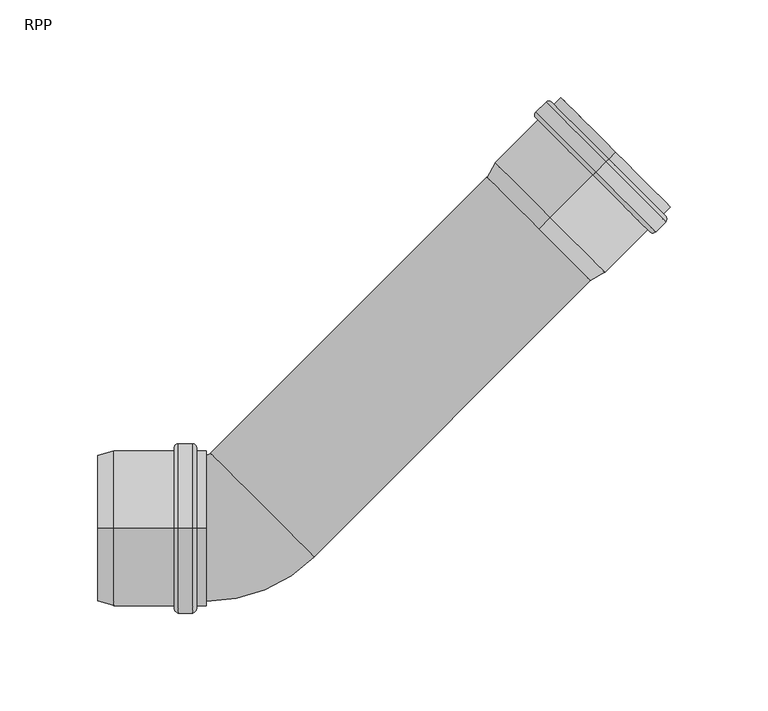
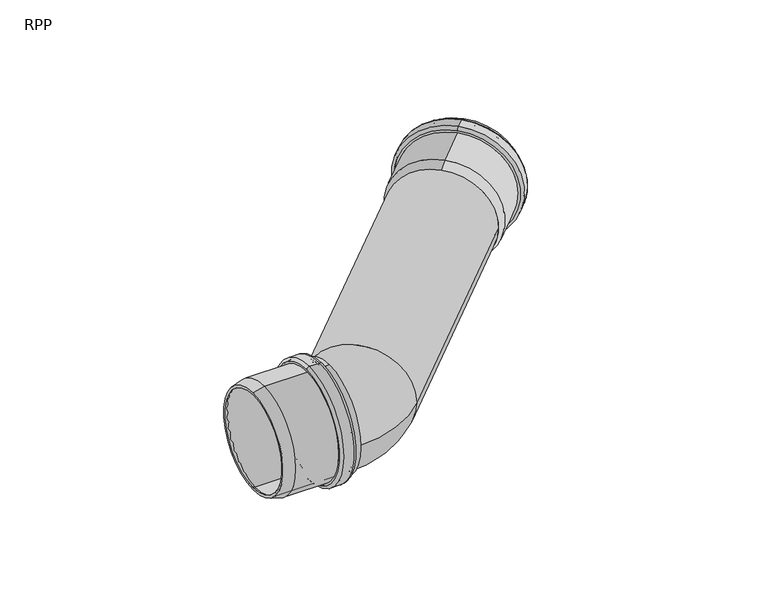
"""IFC4 building model written with IfcOpenShell, lengths in millimetres: pipe fitting geometry, RAUPIANO PLUS Deflection Bend : RPP."""

from ifc_helpers import new_model, si_unit, point, frame, origin, place, context, project, spatial, polyline, circle_curve, ellipse_curve, trimmed, source, transform, mapped, element, save
from ifc_brep_helpers import plane_surface, cylinder_surface, revolved_surface, advanced_brep


def rpp_4973850c(model_context):
    return source(origin(), model_context, "Body", "AdvancedBrep", [
        advanced_brep(
        [(-31.2756493, 0.0, 37.8), (-31.2756493, 0.0, -37.8), (-63.9149978, 0.0, -37.8), (-63.9149978, 0.0, 37.8), (-30.7756493, 0.0, 41.6), (-30.7756493, 0.0, -41.6), (-31.2756493, 0.0, -41.1), (-31.2756493, 0.0, 41.1), (-24.1756493, 0.0, 41.6), (-24.1756493, 0.0, -41.6), (-23.6756493, 0.0, 41.1), (-23.6756493, 0.0, -41.1), (-16.7756493, 0.0, 37.8), (-16.7756493, 0.0, -37.8), (-23.6756493, 0.0, -37.8), (-23.6756493, 0.0, 37.8), (-21.7756493, 0.0, 39.7), (-21.7756493, 0.0, -39.7), (-16.7756493, 0.0, -39.7), (-16.7756493, 0.0, 39.7), (-23.7756493, 0.0, 43.5), (-23.7756493, 0.0, -43.5), (-21.7756493, 0.0, -41.5), (-21.7756493, 0.0, 41.5), (-31.1756493, 0.0, 43.5), (-31.1756493, 0.0, -43.5), (-33.1756493, 0.0, 41.5), (-33.1756493, 0.0, -41.5), (-64.1651375, 0.0, 39.7), (-64.1651375, 0.0, -39.7), (-33.1756493, 0.0, -39.7), (-33.1756493, 0.0, 39.7), (-72.3756493, 0.0, 37.5), (-72.3756493, 0.0, -37.5), (-72.3756493, 0.0, -35.5329753), (-72.3756493, 0.0, 35.5329753)],
        [
            (0, 1, circle_curve(frame((-31.2756493, 0.0, 0.0), z_axis=(1.0, 0.0, 0.0), x_axis=(0.0, 0.0, -1.0)), 37.8)),
            (1, 2),
            (2, 3, circle_curve(frame((-63.9149978, 0.0, 0.0), z_axis=(-1.0, 0.0, 0.0), x_axis=(0.0, 0.0, -1.0)), 37.8)),
            (3, 0),
            (4, 5, circle_curve(frame((-30.7756493, 0.0, 0.0), z_axis=(1.0, 0.0, 0.0), x_axis=(0.0, 0.0, -1.0)), 41.6)),
            (5, 6, circle_curve(frame((-30.7756493, 0.0, -41.1), z_axis=(0.0, 1.0, 0.0), x_axis=(0.0, 0.0, 1.0)), 0.5)),
            (6, 7, circle_curve(frame((-31.2756493, 0.0, 0.0), z_axis=(-1.0, 0.0, 0.0), x_axis=(0.0, 0.0, -1.0)), 41.1)),
            (7, 4, circle_curve(frame((-30.7756493, 0.0, 41.1), z_axis=(0.0, 1.0, 0.0), x_axis=(0.0, 0.0, -1.0)), 0.5)),
            (8, 9, circle_curve(frame((-24.1756493, 0.0, 0.0), z_axis=(1.0, 0.0, 0.0), x_axis=(0.0, 0.0, -1.0)), 41.6)),
            (9, 5),
            (4, 8),
            (10, 11, circle_curve(frame((-23.6756493, 0.0, 0.0), z_axis=(1.0, 0.0, 0.0), x_axis=(0.0, 0.0, -1.0)), 41.1)),
            (11, 9, circle_curve(frame((-24.1756493, 0.0, -41.1), z_axis=(0.0, 1.0, 0.0), x_axis=(0.0, 0.0, 1.0)), 0.5)),
            (8, 10, circle_curve(frame((-24.1756493, 0.0, 41.1), z_axis=(0.0, 1.0, 0.0), x_axis=(0.0, 0.0, -1.0)), 0.5)),
            (12, 13, circle_curve(frame((-16.7756493, 0.0, 0.0), z_axis=(1.0, 0.0, 0.0), x_axis=(0.0, 0.0, -1.0)), 37.8)),
            (13, 14),
            (14, 15, circle_curve(frame((-23.6756493, 0.0, 0.0), z_axis=(-1.0, 0.0, 0.0), x_axis=(0.0, 0.0, -1.0)), 37.8)),
            (15, 12),
            (16, 17, circle_curve(frame((-21.7756493, 0.0, 0.0), z_axis=(1.0, 0.0, 0.0), x_axis=(0.0, 0.0, -1.0)), 39.7)),
            (17, 18),
            (18, 19, circle_curve(frame((-16.7756493, 0.0, 0.0), z_axis=(-1.0, 0.0, 0.0), x_axis=(0.0, 0.0, -1.0)), 39.7)),
            (19, 16),
            (20, 21, circle_curve(frame((-23.7756493, 0.0, 0.0), z_axis=(1.0, 0.0, 0.0), x_axis=(0.0, 0.0, -1.0)), 43.5)),
            (21, 22, circle_curve(frame((-23.7756493, 0.0, -41.5), z_axis=(0.0, -1.0, 0.0), x_axis=(0.0, 0.0, 1.0)), 2.0)),
            (22, 23, circle_curve(frame((-21.7756493, 0.0, 0.0), z_axis=(-1.0, 0.0, 0.0), x_axis=(0.0, 0.0, -1.0)), 41.5)),
            (23, 20, circle_curve(frame((-23.7756493, 0.0, 41.5), z_axis=(0.0, -1.0, 0.0), x_axis=(0.0, 0.0, -1.0)), 2.0)),
            (24, 25, circle_curve(frame((-31.1756493, 0.0, 0.0), z_axis=(1.0, 0.0, 0.0), x_axis=(0.0, 0.0, -1.0)), 43.5)),
            (25, 21),
            (20, 24),
            (26, 27, circle_curve(frame((-33.1756493, 0.0, 0.0), z_axis=(1.0, 0.0, 0.0), x_axis=(0.0, 0.0, -1.0)), 41.5)),
            (27, 25, circle_curve(frame((-31.1756493, 0.0, -41.5), z_axis=(0.0, -1.0, 0.0), x_axis=(0.0, 0.0, 1.0)), 2.0)),
            (24, 26, circle_curve(frame((-31.1756493, 0.0, 41.5), z_axis=(0.0, -1.0, 0.0), x_axis=(0.0, 0.0, -1.0)), 2.0)),
            (28, 29, circle_curve(frame((-64.1651375, 0.0, 0.0), z_axis=(1.0, 0.0, 0.0), x_axis=(0.0, 0.0, -1.0)), 39.7)),
            (29, 30),
            (30, 31, circle_curve(frame((-33.1756493, 0.0, 0.0), z_axis=(-1.0, 0.0, 0.0), x_axis=(0.0, 0.0, -1.0)), 39.7)),
            (31, 28),
            (32, 33, circle_curve(frame((-72.3756493, 0.0, 0.0), z_axis=(1.0, 0.0, 0.0), x_axis=(0.0, 0.0, -1.0)), 37.5)),
            (33, 29),
            (28, 32),
            (2, 34),
            (34, 35, circle_curve(frame((-72.3756493, 0.0, 0.0), z_axis=(-1.0, 0.0, 0.0), x_axis=(0.0, 0.0, -1.0)), 35.5329753)),
            (35, 3),
            (1, 0, circle_curve(frame((-31.2756493, 0.0, 0.0), z_axis=(1.0, 0.0, 0.0), x_axis=(0.0, 0.0, 1.0)), 37.8)),
            (3, 2, circle_curve(frame((-63.9149978, 0.0, 0.0), z_axis=(-1.0, 0.0, 0.0), x_axis=(0.0, 0.0, 1.0)), 37.8)),
            (6, 7, circle_curve(frame((-31.2756493, 0.0, 0.0), z_axis=(1.0, 0.0, 0.0), x_axis=(0.0, 0.0, 1.0)), 41.1)),
            (5, 4, circle_curve(frame((-30.7756493, 0.0, 0.0), z_axis=(1.0, 0.0, 0.0), x_axis=(0.0, 0.0, 1.0)), 41.6)),
            (9, 8, circle_curve(frame((-24.1756493, 0.0, 0.0), z_axis=(1.0, 0.0, 0.0), x_axis=(0.0, 0.0, 1.0)), 41.6)),
            (11, 10, circle_curve(frame((-23.6756493, 0.0, 0.0), z_axis=(1.0, 0.0, 0.0), x_axis=(0.0, 0.0, 1.0)), 41.1)),
            (14, 15, circle_curve(frame((-23.6756493, 0.0, 0.0), z_axis=(1.0, 0.0, 0.0), x_axis=(0.0, 0.0, 1.0)), 37.8)),
            (13, 12, circle_curve(frame((-16.7756493, 0.0, 0.0), z_axis=(1.0, 0.0, 0.0), x_axis=(0.0, 0.0, 1.0)), 37.8)),
            (18, 19, circle_curve(frame((-16.7756493, 0.0, 0.0), z_axis=(1.0, 0.0, 0.0), x_axis=(0.0, 0.0, 1.0)), 39.7)),
            (17, 16, circle_curve(frame((-21.7756493, 0.0, 0.0), z_axis=(1.0, 0.0, 0.0), x_axis=(0.0, 0.0, 1.0)), 39.7)),
            (22, 23, circle_curve(frame((-21.7756493, 0.0, 0.0), z_axis=(1.0, 0.0, 0.0), x_axis=(0.0, 0.0, 1.0)), 41.5)),
            (21, 20, circle_curve(frame((-23.7756493, 0.0, 0.0), z_axis=(1.0, 0.0, 0.0), x_axis=(0.0, 0.0, 1.0)), 43.5)),
            (25, 24, circle_curve(frame((-31.1756493, 0.0, 0.0), z_axis=(1.0, 0.0, 0.0), x_axis=(0.0, 0.0, 1.0)), 43.5)),
            (27, 26, circle_curve(frame((-33.1756493, 0.0, 0.0), z_axis=(1.0, 0.0, 0.0), x_axis=(0.0, 0.0, 1.0)), 41.5)),
            (30, 31, circle_curve(frame((-33.1756493, 0.0, 0.0), z_axis=(1.0, 0.0, 0.0), x_axis=(0.0, 0.0, 1.0)), 39.7)),
            (29, 28, circle_curve(frame((-64.1651375, 0.0, 0.0), z_axis=(1.0, 0.0, 0.0), x_axis=(0.0, 0.0, 1.0)), 39.7)),
            (33, 32, circle_curve(frame((-72.3756493, 0.0, 0.0), z_axis=(1.0, 0.0, 0.0), x_axis=(0.0, 0.0, 1.0)), 37.5)),
            (34, 35, circle_curve(frame((-72.3756493, 0.0, 0.0), z_axis=(1.0, 0.0, 0.0), x_axis=(0.0, 0.0, 1.0)), 35.5329753)),
        ],
        [
            revolved_surface(polyline([(-63.9149978, 0.0, -37.8), (-31.275649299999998, 0.0, -37.8)]), (-72.3756493, 0.0, 0.0), (-1.0, 0.0, 0.0)),
            revolved_surface(trimmed(ellipse_curve(frame((-30.7756493, 0.0, -41.1), z_axis=(0.0, -1.0, 0.0), x_axis=(0.0, 0.0, 1.0)), 0.5, 0.5), [point((-31.2756493, 0.0, -41.1))], [point((-30.7756493, 0.0, -41.6))], True, "CARTESIAN"), (-72.3756493, 0.0, 0.0), (-1.0, 0.0, 0.0)),
            revolved_surface(polyline([(-30.775649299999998, 0.0, -41.6), (-24.175649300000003, 0.0, -41.6)]), (-72.3756493, 0.0, 0.0), (-1.0, 0.0, 0.0)),
            revolved_surface(trimmed(ellipse_curve(frame((-24.1756493, 0.0, -41.1), z_axis=(0.0, -1.0, 0.0), x_axis=(0.0, 0.0, 1.0)), 0.5, 0.5), [point((-24.1756493, 0.0, -41.6))], [point((-23.6756493, 0.0, -41.1))], True, "CARTESIAN"), (-72.3756493, 0.0, 0.0), (-1.0, 0.0, 0.0)),
            revolved_surface(polyline([(-23.675649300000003, 0.0, -37.8), (-16.775649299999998, 0.0, -37.8)]), (-72.3756493, 0.0, 0.0), (-1.0, 0.0, 0.0)),
            cylinder_surface(frame((-72.3756493, 0.0, 0.0), z_axis=(-1.0, 0.0, 0.0), x_axis=(0.0, 0.0, -1.0)), 39.7),
            revolved_surface(trimmed(ellipse_curve(frame((-23.7756493, 0.0, -41.5), z_axis=(0.0, 1.0, 0.0), x_axis=(0.0, 0.0, 1.0)), 2.0, 2.0), [point((-21.7756493, 0.0, -41.5))], [point((-23.7756493, 0.0, -43.5))], True, "CARTESIAN"), (-72.3756493, 0.0, 0.0), (-1.0, 0.0, 0.0)),
            cylinder_surface(frame((-72.3756493, 0.0, 0.0), z_axis=(-1.0, 0.0, 0.0), x_axis=(0.0, 0.0, -1.0)), 43.5),
            revolved_surface(trimmed(ellipse_curve(frame((-31.1756493, 0.0, -41.5), z_axis=(0.0, 1.0, 0.0), x_axis=(0.0, 0.0, 1.0)), 2.0, 2.0), [point((-31.1756493, 0.0, -43.5))], [point((-33.1756493, 0.0, -41.5))], True, "CARTESIAN"), (-72.3756493, 0.0, 0.0), (-1.0, 0.0, 0.0)),
            revolved_surface(polyline([(-64.1651375, 0.0, -39.7), (-72.3756493, 0.0, -37.5)]), (-72.3756493, 0.0, 0.0), (-1.0, 0.0, 0.0)),
            revolved_surface(polyline([(-72.3756493, 0.0, -35.5329753), (-63.9149978, 0.0, -37.8)]), (-72.3756493, 0.0, 0.0), (-1.0, 0.0, 0.0)),
            revolved_surface(polyline([(-63.9149978, 0.0, 37.8), (-31.275649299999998, 0.0, 37.8)]), (-72.3756493, 0.0, 0.0), (-1.0, 0.0, 0.0)),
            plane_surface(frame((-31.2756493, 0.0, 0.0), z_axis=(1.0, 0.0, 0.0), x_axis=(0.0, 0.0, 1.0))),
            revolved_surface(trimmed(ellipse_curve(frame((-30.7756493, 0.0, 41.1), z_axis=(0.0, 1.0, 0.0), x_axis=(0.0, 0.0, -1.0)), 0.5, 0.5), [point((-31.2756493, 0.0, 41.1))], [point((-30.7756493, 0.0, 41.6))], True, "CARTESIAN"), (-72.3756493, 0.0, 0.0), (-1.0, 0.0, 0.0)),
            revolved_surface(polyline([(-30.775649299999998, 0.0, 41.6), (-24.175649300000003, 0.0, 41.6)]), (-72.3756493, 0.0, 0.0), (-1.0, 0.0, 0.0)),
            revolved_surface(trimmed(ellipse_curve(frame((-24.1756493, 0.0, 41.1), z_axis=(0.0, 1.0, 0.0), x_axis=(0.0, 0.0, -1.0)), 0.5, 0.5), [point((-24.1756493, 0.0, 41.6))], [point((-23.6756493, 0.0, 41.1))], True, "CARTESIAN"), (-72.3756493, 0.0, 0.0), (-1.0, 0.0, 0.0)),
            plane_surface(frame((-23.6756493, 0.0, 0.0), z_axis=(-1.0, 0.0, 0.0), x_axis=(0.0, 0.0, 1.0))),
            revolved_surface(polyline([(-23.675649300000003, 0.0, 37.8), (-16.775649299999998, 0.0, 37.8)]), (-72.3756493, 0.0, 0.0), (-1.0, 0.0, 0.0)),
            plane_surface(frame((-16.7756493, 0.0, 0.0), z_axis=(1.0, 0.0, 0.0), x_axis=(0.0, 0.0, 1.0))),
            cylinder_surface(frame((-72.3756493, 0.0, 0.0), z_axis=(-1.0, 0.0, 0.0), x_axis=(0.0, 0.0, 1.0)), 39.7),
            plane_surface(frame((-21.7756493, 0.0, 0.0), z_axis=(1.0, 0.0, 0.0), x_axis=(0.0, 0.0, 1.0))),
            revolved_surface(trimmed(ellipse_curve(frame((-23.7756493, 0.0, 41.5), z_axis=(0.0, -1.0, 0.0), x_axis=(0.0, 0.0, -1.0)), 2.0, 2.0), [point((-21.7756493, 0.0, 41.5))], [point((-23.7756493, 0.0, 43.5))], True, "CARTESIAN"), (-72.3756493, 0.0, 0.0), (-1.0, 0.0, 0.0)),
            cylinder_surface(frame((-72.3756493, 0.0, 0.0), z_axis=(-1.0, 0.0, 0.0), x_axis=(0.0, 0.0, 1.0)), 43.5),
            revolved_surface(trimmed(ellipse_curve(frame((-31.1756493, 0.0, 41.5), z_axis=(0.0, -1.0, 0.0), x_axis=(0.0, 0.0, -1.0)), 2.0, 2.0), [point((-31.1756493, 0.0, 43.5))], [point((-33.1756493, 0.0, 41.5))], True, "CARTESIAN"), (-72.3756493, 0.0, 0.0), (-1.0, 0.0, 0.0)),
            plane_surface(frame((-33.1756493, 0.0, 0.0), z_axis=(-1.0, 0.0, 0.0), x_axis=(0.0, 0.0, 1.0))),
            revolved_surface(polyline([(-64.1651375, 0.0, 39.7), (-72.3756493, 0.0, 37.5)]), (-72.3756493, 0.0, 0.0), (-1.0, 0.0, 0.0)),
            plane_surface(frame((-72.3756493, 0.0, 0.0), z_axis=(-1.0, 0.0, 0.0), x_axis=(0.0, 0.0, 1.0))),
            revolved_surface(polyline([(-72.3756493, 0.0, 35.5329753), (-63.9149978, 0.0, 37.8)]), (-72.3756493, 0.0, 0.0), (-1.0, 0.0, 0.0)),
        ],
        [
            (0, [[1, 2, 3, 4]]),
            (1, [[5, 6, 7, 8]]),
            (2, [[9, 10, -5, 11]]),
            (3, [[12, 13, -9, 14]]),
            (4, [[15, 16, 17, 18]]),
            (5, [[19, 20, 21, 22]]),
            (6, [[23, 24, 25, 26]]),
            (7, [[27, 28, -23, 29]]),
            (8, [[30, 31, -27, 32]]),
            (5, [[33, 34, 35, 36]]),
            (9, [[37, 38, -33, 39]]),
            (10, [[-3, 40, 41, 42]]),
            (11, [[43, -4, 44, -2]]),
            (12, [[45, -7], [-43, -1]]),
            (13, [[46, -8, -45, -6]]),
            (14, [[47, -11, -46, -10]]),
            (15, [[48, -14, -47, -13]]),
            (16, [[-48, -12], [49, -17]]),
            (17, [[50, -18, -49, -16]]),
            (18, [[51, -21], [-50, -15]]),
            (19, [[52, -22, -51, -20]]),
            (20, [[53, -25], [-52, -19]]),
            (21, [[54, -26, -53, -24]]),
            (22, [[55, -29, -54, -28]]),
            (23, [[56, -32, -55, -31]]),
            (24, [[-56, -30], [57, -35]]),
            (19, [[58, -36, -57, -34]]),
            (25, [[59, -39, -58, -38]]),
            (26, [[-59, -37], [60, -41]]),
            (27, [[-44, -42, -60, -40]]),
        ],
    ),
        advanced_brep(
        [(-16.7756493, 0.0, -35.6), (-72.3756493, 0.0, -35.6), (-72.3756493, 0.0, 35.6), (-16.7756493, 0.0, 35.6), (-16.7756493, -35.6, 0.0), (-68.6435985, 0.0, 37.5), (-68.6435985, 0.0, -37.5), (-16.7756493, 0.0, -37.5), (-16.7756493, -37.5, 0.0), (-16.7756493, 0.0, 37.5), (-72.3756493, 0.0, 36.5), (-72.3756493, 0.0, -36.5), (-16.7756493, 35.6, 0.0), (-16.7756493, 37.5, 0.0), (-13.310826, 37.0351768, 0.0), (37.0351768, -13.310826, 0.0), (-14.6543289, 38.3786797, 0.0), (38.3786797, -14.6543289, 0.0), (11.8621754, 11.8621754, 37.5), (11.8621754, 11.8621754, -37.5), (179.8000359, 126.7670273, 0.0), (126.7670273, 179.8000359, 0.0), (178.456533, 128.1105302, 0.0), (128.1105302, 178.456533, 0.0)],
        [
            (0, 1),
            (1, 2, circle_curve(frame((-72.3756493, 0.0, 0.0), z_axis=(-1.0, 0.0, 0.0), x_axis=(0.0, 0.0, -1.0)), 35.6)),
            (2, 3),
            (3, 4, circle_curve(frame((-16.7756493, 0.0, 0.0), z_axis=(1.0, 0.0, 0.0), x_axis=(0.0, 0.0, -1.0)), 35.6)),
            (4, 0, circle_curve(frame((-16.7756493, 0.0, 0.0), z_axis=(1.0, 0.0, 0.0), x_axis=(0.0, 0.0, -1.0)), 35.6)),
            (5, 6, circle_curve(frame((-68.6435985, 0.0, 0.0), z_axis=(1.0, 0.0, 0.0), x_axis=(0.0, 0.0, -1.0)), 37.5)),
            (6, 7),
            (7, 8, circle_curve(frame((-16.7756493, 0.0, 0.0), z_axis=(-1.0, 0.0, 0.0), x_axis=(0.0, 0.0, -1.0)), 37.5)),
            (8, 9, circle_curve(frame((-16.7756493, 0.0, 0.0), z_axis=(-1.0, 0.0, 0.0), x_axis=(0.0, 0.0, -1.0)), 37.5)),
            (9, 5),
            (5, 10),
            (10, 11, circle_curve(frame((-72.3756493, 0.0, 0.0), z_axis=(1.0, 0.0, 0.0), x_axis=(0.0, 0.0, -1.0)), 36.5)),
            (11, 6),
            (0, 12, circle_curve(frame((-16.7756493, 0.0, 0.0), z_axis=(1.0, 0.0, 0.0), x_axis=(0.0, 0.0, 1.0)), 35.6)),
            (12, 3, circle_curve(frame((-16.7756493, 0.0, 0.0), z_axis=(1.0, 0.0, 0.0), x_axis=(0.0, 0.0, 1.0)), 35.6)),
            (2, 1, circle_curve(frame((-72.3756493, 0.0, 0.0), z_axis=(-1.0, 0.0, 0.0), x_axis=(0.0, 0.0, 1.0)), 35.6)),
            (6, 5, circle_curve(frame((-68.6435985, 0.0, 0.0), z_axis=(1.0, 0.0, 0.0), x_axis=(0.0, 0.0, 1.0)), 37.5)),
            (9, 13, circle_curve(frame((-16.7756493, 0.0, 0.0), z_axis=(-1.0, 0.0, 0.0), x_axis=(0.0, 0.0, 1.0)), 37.5)),
            (13, 7, circle_curve(frame((-16.7756493, 0.0, 0.0), z_axis=(-1.0, 0.0, 0.0), x_axis=(0.0, 0.0, 1.0)), 37.5)),
            (11, 10, circle_curve(frame((-72.3756493, 0.0, 0.0), z_axis=(1.0, 0.0, 0.0), x_axis=(0.0, 0.0, 1.0)), 36.5)),
            (14, 12, circle_curve(frame((-16.7756493, 40.5, 0.0), z_axis=(0.0, 0.0, -1.0), x_axis=(0.0, -1.0, 0.0)), 4.9)),
            (4, 15, circle_curve(frame((-16.7756493, 40.5, 0.0), z_axis=(0.0, 0.0, 1.0), x_axis=(0.0, -1.0, 0.0)), 76.1)),
            (15, 14, circle_curve(frame((11.8621754, 11.8621754, 0.0), z_axis=(0.7071067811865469, 0.7071067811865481, 0.0), x_axis=(-0.7071067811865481, 0.7071067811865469, 0.0)), 35.6)),
            (14, 15, circle_curve(frame((11.8621754, 11.8621754, 0.0), z_axis=(0.7071067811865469, 0.7071067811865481, 0.0), x_axis=(-0.7071067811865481, 0.7071067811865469, 0.0)), 35.6)),
            (16, 13, circle_curve(frame((-16.7756493, 40.5, 0.0), z_axis=(0.0, 0.0, -1.0), x_axis=(0.0, -1.0, 0.0)), 3.0)),
            (8, 17, circle_curve(frame((-16.7756493, 40.5, 0.0), z_axis=(0.0, 0.0, 1.0), x_axis=(0.0, -1.0, 0.0)), 78.0)),
            (17, 18, circle_curve(frame((11.8621754, 11.8621754, 0.0), z_axis=(-0.7071067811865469, -0.7071067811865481, 0.0), x_axis=(-0.7071067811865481, 0.7071067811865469, 0.0)), 37.5)),
            (18, 16, circle_curve(frame((11.8621754, 11.8621754, 0.0), z_axis=(-0.7071067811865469, -0.7071067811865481, 0.0), x_axis=(-0.7071067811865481, 0.7071067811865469, 0.0)), 37.5)),
            (16, 19, circle_curve(frame((11.8621754, 11.8621754, 0.0), z_axis=(-0.7071067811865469, -0.7071067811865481, 0.0), x_axis=(-0.7071067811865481, 0.7071067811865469, 0.0)), 37.5)),
            (19, 17, circle_curve(frame((11.8621754, 11.8621754, 0.0), z_axis=(-0.7071067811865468, -0.7071067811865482, 0.0), x_axis=(-0.7071067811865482, 0.7071067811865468, 0.0)), 37.5)),
            (20, 21, circle_curve(frame((153.2835316, 153.2835316, 0.0), z_axis=(0.7071067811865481, 0.7071067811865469, 0.0), x_axis=(-0.7071067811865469, 0.7071067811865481, 0.0)), 37.5)),
            (21, 20, circle_curve(frame((153.2835316, 153.2835316, 0.0), z_axis=(0.7071067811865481, 0.7071067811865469, 0.0), x_axis=(-0.7071067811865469, 0.7071067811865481, 0.0)), 37.5)),
            (22, 23, circle_curve(frame((153.2835316, 153.2835316, 0.0), z_axis=(-0.7071067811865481, -0.7071067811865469, 0.0), x_axis=(-0.7071067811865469, 0.7071067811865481, 0.0)), 35.6)),
            (23, 22, circle_curve(frame((153.2835316, 153.2835316, 0.0), z_axis=(-0.7071067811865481, -0.7071067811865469, 0.0), x_axis=(-0.7071067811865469, 0.7071067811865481, 0.0)), 35.6)),
            (23, 14),
            (15, 22),
            (21, 16),
            (17, 20),
        ],
        [
            revolved_surface(polyline([(-72.3756493, 0.0, -35.6), (-16.7756493, 0.0, -35.6)]), (-16.7756493, 0.0, 0.0), (-1.0, 0.0, 0.0)),
            cylinder_surface(frame((-16.7756493, 0.0, 0.0), z_axis=(-1.0, 0.0, 0.0), x_axis=(0.0, 0.0, -1.0)), 37.5),
            revolved_surface(polyline([(-68.6435985, 0.0, -37.5), (-72.3756493, 0.0, -36.5)]), (-16.7756493, 0.0, 0.0), (-1.0, 0.0, 0.0)),
            revolved_surface(polyline([(-72.3756493, 0.0, 35.6), (-16.7756493, 0.0, 35.6)]), (-16.7756493, 0.0, 0.0), (-1.0, 0.0, 0.0)),
            cylinder_surface(frame((-16.7756493, 0.0, 0.0), z_axis=(-1.0, 0.0, 0.0), x_axis=(0.0, 0.0, 1.0)), 37.5),
            revolved_surface(polyline([(-68.6435985, 0.0, 37.5), (-72.3756493, 0.0, 36.5)]), (-16.7756493, 0.0, 0.0), (-1.0, 0.0, 0.0)),
            plane_surface(frame((-72.3756493, 0.0, 0.0), z_axis=(-1.0, 0.0, 0.0), x_axis=(0.0, 0.0, 1.0))),
            revolved_surface(trimmed(ellipse_curve(frame((-16.7756493, 0.0, 0.0), z_axis=(1.0, 0.0, 0.0), x_axis=(0.0, 1.0, 0.0)), 35.6, 35.6), [point((-16.7756493, -35.6, 0.0))], [point((-16.7756493, 35.6, 0.0))], True, "CARTESIAN"), (-16.7756493, 40.5, 0.0), (0.0, 0.0, 1.0)),
            revolved_surface(trimmed(ellipse_curve(frame((-16.7756493, 0.0, 0.0), z_axis=(1.0, 0.0, 0.0), x_axis=(0.0, 1.0, 0.0)), 35.6, 35.6), [point((-16.7756493, 35.6, 0.0))], [point((-16.7756493, -35.6, 0.0))], True, "CARTESIAN"), (-16.7756493, 40.5, 0.0), (0.0, 0.0, 1.0)),
            revolved_surface(trimmed(ellipse_curve(frame((-16.7756493, 0.0, 0.0), z_axis=(-1.0, 0.0, 0.0), x_axis=(0.0, 1.0, 0.0)), 37.5, 37.5), [point((-16.7756493, -37.5, 0.0))], [point((-16.7756493, 37.5, 0.0))], True, "CARTESIAN"), (-16.7756493, 40.5, 0.0), (0.0, 0.0, 1.0)),
            revolved_surface(trimmed(ellipse_curve(frame((-16.7756493, 0.0, 0.0), z_axis=(-1.0, 0.0, 0.0), x_axis=(0.0, 1.0, 0.0)), 37.5, 37.5), [point((-16.7756493, 37.5, 0.0))], [point((-16.7756493, -37.5, 0.0))], True, "CARTESIAN"), (-16.7756493, 40.5, 0.0), (0.0, 0.0, 1.0)),
            plane_surface(frame((153.2835316, 153.2835316, 0.0), z_axis=(0.7071067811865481, 0.7071067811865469, 0.0), x_axis=(0.0, 0.0, 1.0))),
            revolved_surface(polyline([(128.11053018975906, 178.456533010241, 0.0), (-13.310826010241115, 37.03517681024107, 0.0)]), (11.8621754, 11.8621754, 0.0), (0.7071067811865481, 0.7071067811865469, 0.0)),
            cylinder_surface(frame((11.8621754, 11.8621754, 0.0), z_axis=(-0.7071067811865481, -0.7071067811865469, 0.0), x_axis=(-0.7071067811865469, 0.7071067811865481, 0.0)), 37.5),
        ],
        [
            (0, [[1, 2, 3, 4, 5]]),
            (1, [[6, 7, 8, 9, 10]]),
            (2, [[-6, 11, 12, 13]]),
            (3, [[-1, 14, 15, -3, 16]]),
            (4, [[-7, 17, -10, 18, 19]]),
            (5, [[-13, 20, -11, -17]]),
            (6, [[-12, -20], [-2, -16]]),
            (7, [[21, -14, -5, 22, 23]]),
            (8, [[-21, 24, -22, -4, -15]]),
            (9, [[25, -18, -9, 26, 27, 28]]),
            (10, [[-25, 29, 30, -26, -8, -19]]),
            (11, [[31, 32], [33, 34]]),
            (12, [[-34, 35, -23, 36]]),
            (12, [[-33, -36, -24, -35]]),
            (13, [[-32, 37, -28, -27, 38]]),
            (13, [[-31, -38, -30, -29, -37]]),
        ],
    ),
        advanced_brep(
        [(153.2835316, 153.2835316, 35.5329753), (153.2835316, 153.2835316, -35.5329753), (159.2661157, 159.2661157, -37.8), (159.2661157, 159.2661157, 37.8), (159.0892402, 159.0892402, 39.7), (159.0892402, 159.0892402, -39.7), (153.2835316, 153.2835316, -37.5), (153.2835316, 153.2835316, 37.5), (181.0021174, 181.0021174, 39.7), (181.0021174, 181.0021174, -39.7), (182.416331, 182.416331, 43.5), (182.416331, 182.416331, -43.5), (181.0021174, 181.0021174, -41.5), (181.0021174, 181.0021174, 41.5), (187.6489212, 187.6489212, 43.5), (187.6489212, 187.6489212, -43.5), (189.0631347, 189.0631347, 41.5), (189.0631347, 189.0631347, -41.5), (192.5986686, 192.5986686, 39.7), (192.5986686, 192.5986686, -39.7), (189.0631347, 189.0631347, -39.7), (189.0631347, 189.0631347, 39.7), (187.7196318, 187.7196318, 37.8), (187.7196318, 187.7196318, -37.8), (192.5986686, 192.5986686, -37.8), (192.5986686, 192.5986686, 37.8), (187.3660785, 187.3660785, 41.6), (187.3660785, 187.3660785, -41.6), (187.7196318, 187.7196318, -41.1), (187.7196318, 187.7196318, 41.1), (182.6991737, 182.6991737, 41.6), (182.6991737, 182.6991737, -41.6), (182.3456203, 182.3456203, 41.1), (182.3456203, 182.3456203, -41.1), (182.3456203, 182.3456203, -37.8), (182.3456203, 182.3456203, 37.8)],
        [
            (0, 1, circle_curve(frame((153.2835316, 153.2835316, 0.0), z_axis=(-0.7071067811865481, -0.7071067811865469, 0.0), x_axis=(0.0, 0.0, -1.0)), 35.5329753)),
            (1, 2),
            (2, 3, circle_curve(frame((159.2661157, 159.2661157, 0.0), z_axis=(0.7071067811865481, 0.7071067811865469, 0.0), x_axis=(0.0, 0.0, -1.0)), 37.8)),
            (3, 0),
            (4, 5, circle_curve(frame((159.0892402, 159.0892402, 0.0), z_axis=(-0.7071067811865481, -0.7071067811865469, 0.0), x_axis=(0.0, 0.0, -1.0)), 39.7)),
            (5, 6),
            (6, 7, circle_curve(frame((153.2835316, 153.2835316, 0.0), z_axis=(0.7071067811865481, 0.7071067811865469, 0.0), x_axis=(0.0, 0.0, -1.0)), 37.5)),
            (7, 4),
            (8, 9, circle_curve(frame((181.0021174, 181.0021174, 0.0), z_axis=(-0.7071067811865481, -0.7071067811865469, 0.0), x_axis=(0.0, 0.0, -1.0)), 39.7)),
            (9, 5),
            (4, 8),
            (10, 11, circle_curve(frame((182.416331, 182.416331, 0.0), z_axis=(-0.7071067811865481, -0.7071067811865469, 0.0), x_axis=(0.0, 0.0, -1.0)), 43.5)),
            (11, 12, circle_curve(frame((182.416331, 182.416331, -41.5), z_axis=(-0.7071067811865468, 0.7071067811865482, 0.0), x_axis=(0.0, 0.0, 1.0)), 2.0)),
            (12, 13, circle_curve(frame((181.0021174, 181.0021174, 0.0), z_axis=(0.7071067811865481, 0.7071067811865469, 0.0), x_axis=(0.0, 0.0, -1.0)), 41.5)),
            (13, 10, circle_curve(frame((182.416331, 182.416331, 41.5), z_axis=(-0.707106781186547, 0.707106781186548, 0.0), x_axis=(0.0, 0.0, -1.0)), 2.0)),
            (14, 15, circle_curve(frame((187.6489212, 187.6489212, 0.0), z_axis=(-0.7071067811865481, -0.7071067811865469, 0.0), x_axis=(0.0, 0.0, -1.0)), 43.5)),
            (15, 11),
            (10, 14),
            (16, 17, circle_curve(frame((189.0631347, 189.0631347, 0.0), z_axis=(-0.7071067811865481, -0.7071067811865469, 0.0), x_axis=(0.0, 0.0, -1.0)), 41.5)),
            (17, 15, circle_curve(frame((187.6489212, 187.6489212, -41.5), z_axis=(-0.7071067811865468, 0.7071067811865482, 0.0), x_axis=(0.0, 0.0, 1.0)), 2.0)),
            (14, 16, circle_curve(frame((187.6489212, 187.6489212, 41.5), z_axis=(-0.707106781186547, 0.707106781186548, 0.0), x_axis=(0.0, 0.0, -1.0)), 2.0)),
            (18, 19, circle_curve(frame((192.5986686, 192.5986686, 0.0), z_axis=(-0.7071067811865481, -0.7071067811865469, 0.0), x_axis=(0.0, 0.0, -1.0)), 39.7)),
            (19, 20),
            (20, 21, circle_curve(frame((189.0631347, 189.0631347, 0.0), z_axis=(0.7071067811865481, 0.7071067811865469, 0.0), x_axis=(0.0, 0.0, -1.0)), 39.7)),
            (21, 18),
            (22, 23, circle_curve(frame((187.7196318, 187.7196318, 0.0), z_axis=(-0.7071067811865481, -0.7071067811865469, 0.0), x_axis=(0.0, 0.0, -1.0)), 37.8)),
            (23, 24),
            (24, 25, circle_curve(frame((192.5986686, 192.5986686, 0.0), z_axis=(0.7071067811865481, 0.7071067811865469, 0.0), x_axis=(0.0, 0.0, -1.0)), 37.8)),
            (25, 22),
            (26, 27, circle_curve(frame((187.3660785, 187.3660785, 0.0), z_axis=(-0.7071067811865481, -0.7071067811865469, 0.0), x_axis=(0.0, 0.0, -1.0)), 41.6)),
            (27, 28, circle_curve(frame((187.3660785, 187.3660785, -41.1), z_axis=(0.7071067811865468, -0.7071067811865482, 0.0), x_axis=(0.0, 0.0, 1.0)), 0.5)),
            (28, 29, circle_curve(frame((187.7196318, 187.7196318, 0.0), z_axis=(0.7071067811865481, 0.7071067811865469, 0.0), x_axis=(0.0, 0.0, -1.0)), 41.1)),
            (29, 26, circle_curve(frame((187.3660785, 187.3660785, 41.1), z_axis=(0.707106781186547, -0.707106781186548, 0.0), x_axis=(0.0, 0.0, -1.0)), 0.5)),
            (30, 31, circle_curve(frame((182.6991737, 182.6991737, 0.0), z_axis=(-0.7071067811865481, -0.7071067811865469, 0.0), x_axis=(0.0, 0.0, -1.0)), 41.6)),
            (31, 27),
            (26, 30),
            (32, 33, circle_curve(frame((182.3456203, 182.3456203, 0.0), z_axis=(-0.7071067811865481, -0.7071067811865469, 0.0), x_axis=(0.0, 0.0, -1.0)), 41.1)),
            (33, 31, circle_curve(frame((182.6991737, 182.6991737, -41.1), z_axis=(0.7071067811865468, -0.7071067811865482, 0.0), x_axis=(0.0, 0.0, 1.0)), 0.5)),
            (30, 32, circle_curve(frame((182.6991737, 182.6991737, 41.1), z_axis=(0.707106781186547, -0.707106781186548, 0.0), x_axis=(0.0, 0.0, -1.0)), 0.5)),
            (2, 34),
            (34, 35, circle_curve(frame((182.3456203, 182.3456203, 0.0), z_axis=(0.7071067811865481, 0.7071067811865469, 0.0), x_axis=(0.0, 0.0, -1.0)), 37.8)),
            (35, 3),
            (1, 0, circle_curve(frame((153.2835316, 153.2835316, 0.0), z_axis=(-0.7071067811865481, -0.7071067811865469, 0.0), x_axis=(0.0, 0.0, 1.0)), 35.5329753)),
            (3, 2, circle_curve(frame((159.2661157, 159.2661157, 0.0), z_axis=(0.7071067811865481, 0.7071067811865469, 0.0), x_axis=(0.0, 0.0, 1.0)), 37.8)),
            (6, 7, circle_curve(frame((153.2835316, 153.2835316, 0.0), z_axis=(-0.7071067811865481, -0.7071067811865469, 0.0), x_axis=(0.0, 0.0, 1.0)), 37.5)),
            (5, 4, circle_curve(frame((159.0892402, 159.0892402, 0.0), z_axis=(-0.7071067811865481, -0.7071067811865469, 0.0), x_axis=(0.0, 0.0, 1.0)), 39.7)),
            (9, 8, circle_curve(frame((181.0021174, 181.0021174, 0.0), z_axis=(-0.7071067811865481, -0.7071067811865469, 0.0), x_axis=(0.0, 0.0, 1.0)), 39.7)),
            (12, 13, circle_curve(frame((181.0021174, 181.0021174, 0.0), z_axis=(-0.7071067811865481, -0.7071067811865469, 0.0), x_axis=(0.0, 0.0, 1.0)), 41.5)),
            (11, 10, circle_curve(frame((182.416331, 182.416331, 0.0), z_axis=(-0.7071067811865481, -0.7071067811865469, 0.0), x_axis=(0.0, 0.0, 1.0)), 43.5)),
            (15, 14, circle_curve(frame((187.6489212, 187.6489212, 0.0), z_axis=(-0.7071067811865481, -0.7071067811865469, 0.0), x_axis=(0.0, 0.0, 1.0)), 43.5)),
            (17, 16, circle_curve(frame((189.0631347, 189.0631347, 0.0), z_axis=(-0.7071067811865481, -0.7071067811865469, 0.0), x_axis=(0.0, 0.0, 1.0)), 41.5)),
            (20, 21, circle_curve(frame((189.0631347, 189.0631347, 0.0), z_axis=(-0.7071067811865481, -0.7071067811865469, 0.0), x_axis=(0.0, 0.0, 1.0)), 39.7)),
            (19, 18, circle_curve(frame((192.5986686, 192.5986686, 0.0), z_axis=(-0.7071067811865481, -0.7071067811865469, 0.0), x_axis=(0.0, 0.0, 1.0)), 39.7)),
            (24, 25, circle_curve(frame((192.5986686, 192.5986686, 0.0), z_axis=(-0.7071067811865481, -0.7071067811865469, 0.0), x_axis=(0.0, 0.0, 1.0)), 37.8)),
            (23, 22, circle_curve(frame((187.7196318, 187.7196318, 0.0), z_axis=(-0.7071067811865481, -0.7071067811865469, 0.0), x_axis=(0.0, 0.0, 1.0)), 37.8)),
            (28, 29, circle_curve(frame((187.7196318, 187.7196318, 0.0), z_axis=(-0.7071067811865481, -0.7071067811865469, 0.0), x_axis=(0.0, 0.0, 1.0)), 41.1)),
            (27, 26, circle_curve(frame((187.3660785, 187.3660785, 0.0), z_axis=(-0.7071067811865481, -0.7071067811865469, 0.0), x_axis=(0.0, 0.0, 1.0)), 41.6)),
            (31, 30, circle_curve(frame((182.6991737, 182.6991737, 0.0), z_axis=(-0.7071067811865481, -0.7071067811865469, 0.0), x_axis=(0.0, 0.0, 1.0)), 41.6)),
            (33, 32, circle_curve(frame((182.3456203, 182.3456203, 0.0), z_axis=(-0.7071067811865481, -0.7071067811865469, 0.0), x_axis=(0.0, 0.0, 1.0)), 41.1)),
            (34, 35, circle_curve(frame((182.3456203, 182.3456203, 0.0), z_axis=(-0.7071067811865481, -0.7071067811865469, 0.0), x_axis=(0.0, 0.0, 1.0)), 37.8)),
        ],
        [
            revolved_surface(polyline([(159.2661157, 159.2661157, -37.8), (153.2835316, 153.2835316, -35.5329753)]), (153.2835316, 153.2835316, 0.0), (0.7071067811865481, 0.7071067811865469, 0.0)),
            revolved_surface(polyline([(153.2835316, 153.2835316, -37.5), (159.0892402, 159.0892402, -39.7)]), (153.2835316, 153.2835316, 0.0), (0.7071067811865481, 0.7071067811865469, 0.0)),
            cylinder_surface(frame((153.2835316, 153.2835316, 0.0), z_axis=(0.7071067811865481, 0.7071067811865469, 0.0), x_axis=(0.0, 0.0, -1.0)), 39.7),
            revolved_surface(trimmed(ellipse_curve(frame((182.416331, 182.416331, -41.5), z_axis=(0.7071067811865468, -0.7071067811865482, 0.0), x_axis=(0.0, 0.0, 1.0)), 2.0, 2.0), [point((181.0021174, 181.0021174, -41.5))], [point((182.416331, 182.416331, -43.5))], True, "CARTESIAN"), (153.2835316, 153.2835316, 0.0), (0.7071067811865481, 0.7071067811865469, 0.0)),
            cylinder_surface(frame((153.2835316, 153.2835316, 0.0), z_axis=(0.7071067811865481, 0.7071067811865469, 0.0), x_axis=(0.0, 0.0, -1.0)), 43.5),
            revolved_surface(trimmed(ellipse_curve(frame((187.6489212, 187.6489212, -41.5), z_axis=(0.7071067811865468, -0.7071067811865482, 0.0), x_axis=(0.0, 0.0, 1.0)), 2.0, 2.0), [point((187.6489212, 187.6489212, -43.5))], [point((189.0631347, 189.0631347, -41.5))], True, "CARTESIAN"), (153.2835316, 153.2835316, 0.0), (0.7071067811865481, 0.7071067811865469, 0.0)),
            revolved_surface(polyline([(192.59866860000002, 192.59866859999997, -37.8), (187.71963180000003, 187.71963179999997, -37.8)]), (153.2835316, 153.2835316, 0.0), (0.7071067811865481, 0.7071067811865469, 0.0)),
            revolved_surface(trimmed(ellipse_curve(frame((187.3660785, 187.3660785, -41.1), z_axis=(-0.7071067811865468, 0.7071067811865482, 0.0), x_axis=(0.0, 0.0, 1.0)), 0.5, 0.5), [point((187.7196318, 187.7196318, -41.1))], [point((187.3660785, 187.3660785, -41.6))], True, "CARTESIAN"), (153.2835316, 153.2835316, 0.0), (0.7071067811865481, 0.7071067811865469, 0.0)),
            revolved_surface(polyline([(187.36607850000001, 187.36607849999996, -41.6), (182.69917370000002, 182.69917369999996, -41.6)]), (153.2835316, 153.2835316, 0.0), (0.7071067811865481, 0.7071067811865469, 0.0)),
            revolved_surface(trimmed(ellipse_curve(frame((182.6991737, 182.6991737, -41.1), z_axis=(-0.7071067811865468, 0.7071067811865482, 0.0), x_axis=(0.0, 0.0, 1.0)), 0.5, 0.5), [point((182.6991737, 182.6991737, -41.6))], [point((182.3456203, 182.3456203, -41.1))], True, "CARTESIAN"), (153.2835316, 153.2835316, 0.0), (0.7071067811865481, 0.7071067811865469, 0.0)),
            revolved_surface(polyline([(182.34562030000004, 182.34562029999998, -37.8), (159.2661157, 159.2661157, -37.8)]), (153.2835316, 153.2835316, 0.0), (0.7071067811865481, 0.7071067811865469, 0.0)),
            revolved_surface(polyline([(159.2661157, 159.2661157, 37.8), (153.2835316, 153.2835316, 35.5329753)]), (153.2835316, 153.2835316, 0.0), (0.7071067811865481, 0.7071067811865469, 0.0)),
            plane_surface(frame((153.2835316, 153.2835316, 0.0), z_axis=(-0.7071067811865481, -0.7071067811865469, 0.0), x_axis=(0.0, 0.0, 1.0))),
            revolved_surface(polyline([(153.2835316, 153.2835316, 37.5), (159.0892402, 159.0892402, 39.7)]), (153.2835316, 153.2835316, 0.0), (0.7071067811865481, 0.7071067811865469, 0.0)),
            cylinder_surface(frame((153.2835316, 153.2835316, 0.0), z_axis=(0.7071067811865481, 0.7071067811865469, 0.0), x_axis=(0.0, 0.0, 1.0)), 39.7),
            plane_surface(frame((181.0021174, 181.0021174, 0.0), z_axis=(-0.7071067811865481, -0.7071067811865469, 0.0), x_axis=(0.0, 0.0, 1.0))),
            revolved_surface(trimmed(ellipse_curve(frame((182.416331, 182.416331, 41.5), z_axis=(-0.707106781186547, 0.707106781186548, 0.0), x_axis=(0.0, 0.0, -1.0)), 2.0, 2.0), [point((181.0021174, 181.0021174, 41.5))], [point((182.416331, 182.416331, 43.5))], True, "CARTESIAN"), (153.2835316, 153.2835316, 0.0), (0.7071067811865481, 0.7071067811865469, 0.0)),
            cylinder_surface(frame((153.2835316, 153.2835316, 0.0), z_axis=(0.7071067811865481, 0.7071067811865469, 0.0), x_axis=(0.0, 0.0, 1.0)), 43.5),
            revolved_surface(trimmed(ellipse_curve(frame((187.6489212, 187.6489212, 41.5), z_axis=(-0.707106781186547, 0.707106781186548, 0.0), x_axis=(0.0, 0.0, -1.0)), 2.0, 2.0), [point((187.6489212, 187.6489212, 43.5))], [point((189.0631347, 189.0631347, 41.5))], True, "CARTESIAN"), (153.2835316, 153.2835316, 0.0), (0.7071067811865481, 0.7071067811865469, 0.0)),
            plane_surface(frame((189.0631347, 189.0631347, 0.0), z_axis=(0.7071067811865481, 0.7071067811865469, 0.0), x_axis=(0.0, 0.0, 1.0))),
            plane_surface(frame((192.5986686, 192.5986686, 0.0), z_axis=(0.7071067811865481, 0.7071067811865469, 0.0), x_axis=(0.0, 0.0, 1.0))),
            revolved_surface(polyline([(192.59866860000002, 192.59866859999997, 37.8), (187.71963180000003, 187.71963179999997, 37.8)]), (153.2835316, 153.2835316, 0.0), (0.7071067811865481, 0.7071067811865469, 0.0)),
            plane_surface(frame((187.7196318, 187.7196318, 0.0), z_axis=(-0.7071067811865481, -0.7071067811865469, 0.0), x_axis=(0.0, 0.0, 1.0))),
            revolved_surface(trimmed(ellipse_curve(frame((187.3660785, 187.3660785, 41.1), z_axis=(0.707106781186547, -0.707106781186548, 0.0), x_axis=(0.0, 0.0, -1.0)), 0.5, 0.5), [point((187.7196318, 187.7196318, 41.1))], [point((187.3660785, 187.3660785, 41.6))], True, "CARTESIAN"), (153.2835316, 153.2835316, 0.0), (0.7071067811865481, 0.7071067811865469, 0.0)),
            revolved_surface(polyline([(187.36607850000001, 187.36607849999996, 41.6), (182.69917370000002, 182.69917369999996, 41.6)]), (153.2835316, 153.2835316, 0.0), (0.7071067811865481, 0.7071067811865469, 0.0)),
            revolved_surface(trimmed(ellipse_curve(frame((182.6991737, 182.6991737, 41.1), z_axis=(0.707106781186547, -0.707106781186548, 0.0), x_axis=(0.0, 0.0, -1.0)), 0.5, 0.5), [point((182.6991737, 182.6991737, 41.6))], [point((182.3456203, 182.3456203, 41.1))], True, "CARTESIAN"), (153.2835316, 153.2835316, 0.0), (0.7071067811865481, 0.7071067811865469, 0.0)),
            plane_surface(frame((182.3456203, 182.3456203, 0.0), z_axis=(0.7071067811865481, 0.7071067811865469, 0.0), x_axis=(0.0, 0.0, 1.0))),
            revolved_surface(polyline([(182.34562030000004, 182.34562029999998, 37.8), (159.2661157, 159.2661157, 37.8)]), (153.2835316, 153.2835316, 0.0), (0.7071067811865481, 0.7071067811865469, 0.0)),
        ],
        [
            (0, [[1, 2, 3, 4]]),
            (1, [[5, 6, 7, 8]]),
            (2, [[9, 10, -5, 11]]),
            (3, [[12, 13, 14, 15]]),
            (4, [[16, 17, -12, 18]]),
            (5, [[19, 20, -16, 21]]),
            (2, [[22, 23, 24, 25]]),
            (6, [[26, 27, 28, 29]]),
            (7, [[30, 31, 32, 33]]),
            (8, [[34, 35, -30, 36]]),
            (9, [[37, 38, -34, 39]]),
            (10, [[-3, 40, 41, 42]]),
            (11, [[43, -4, 44, -2]]),
            (12, [[45, -7], [-43, -1]]),
            (13, [[46, -8, -45, -6]]),
            (14, [[47, -11, -46, -10]]),
            (15, [[48, -14], [-47, -9]]),
            (16, [[49, -15, -48, -13]]),
            (17, [[50, -18, -49, -17]]),
            (18, [[51, -21, -50, -20]]),
            (19, [[-51, -19], [52, -24]]),
            (14, [[53, -25, -52, -23]]),
            (20, [[-53, -22], [54, -28]]),
            (21, [[55, -29, -54, -27]]),
            (22, [[56, -32], [-55, -26]]),
            (23, [[57, -33, -56, -31]]),
            (24, [[58, -36, -57, -35]]),
            (25, [[59, -39, -58, -38]]),
            (26, [[-59, -37], [60, -41]]),
            (27, [[-44, -42, -60, -40]]),
        ],
    ),
    ])


if __name__ == "__main__":
    model = new_model("IFC4")
    model_context = context("Model", 3, world=origin())
    ifc_project = project(units=[si_unit("LENGTHUNIT", "METRE", prefix="MILLI")], contexts=[model_context])
    site = spatial("IfcSite", under=ifc_project)
    building = spatial("IfcBuilding", under=site)
    placement = place(None, origin())
    rpp_shape = rpp_4973850c(model_context)
    element("IfcPipeFitting", 1, ObjectType="RAUPIANO PLUS Deflection Bend : RPP", at=placement, inside=building, context=model_context, shape_type="MappedRepresentation", body=[
        mapped(rpp_shape, transform((0.0, 0.0, 0.0), x_axis=(1.0, 0.0, 0.0), y_axis=(0.0, 1.0, 0.0), z_axis=(0.0, 0.0, 1.0))),
    ])
    save(model, "model.ifc")
